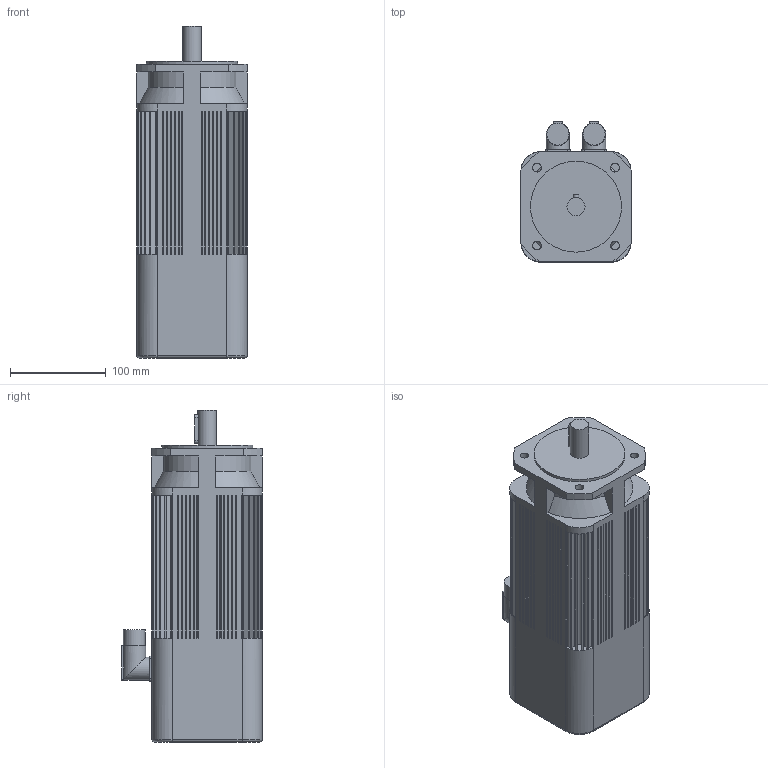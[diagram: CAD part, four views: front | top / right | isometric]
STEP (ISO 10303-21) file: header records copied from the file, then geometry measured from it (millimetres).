
FILE_DESCRIPTION(/* description */ (''),/* implementation_level */ '2;1');
FILE_NAME(/* name */ '\\Lafnas01\disegni\Archivi Lafert\3D\CAD 3D\MODELLI\Assiemi clienti\Serad\Modelli 3D Serad\B63I\Encoder\Enc Without Brake\B6308Ixx6ARx2033.ipt.stp',/* time_stamp */ '2015-09-07T10:50:37+02:00',/* author */ ('Pastrello Ylenia'),/* organization */ (''),/* preprocessor_version */ 'ST-DEVELOPER v15.6',/* originating_system */ 'Autodesk Inventor 2015',/* authorisation */ '');
FILE_SCHEMA (('AUTOMOTIVE_DESIGN { 1 0 10303 214 3 1 1 }'));
Length unit declared in the file: millimetre
Products named in the file (1): B6308Ixx6ARx2033
Bounding box: 115 x 146.5 x 346.5 mm (x, y, z)
Volume: 3788605 mm3; surface area: 211969.6 mm2
Topology: 1 solids, 1 shells, 445 faces, 1091 edges, 704 vertices
Faces by surface type: plane 351, cylinder 86, cone 4, torus 4
Full cylindrical faces by diameter (mm): 9 x4, 19 x1, 22.7 x2, 24 x2, 95 x1
Entity records: 13008 total; most frequent: CARTESIAN_POINT 2276, DIRECTION 2254, ORIENTED_EDGE 2156, EDGE_CURVE 1078, LINE 774, VECTOR 774, AXIS2_PLACEMENT_3D 740, VERTEX_POINT 702
